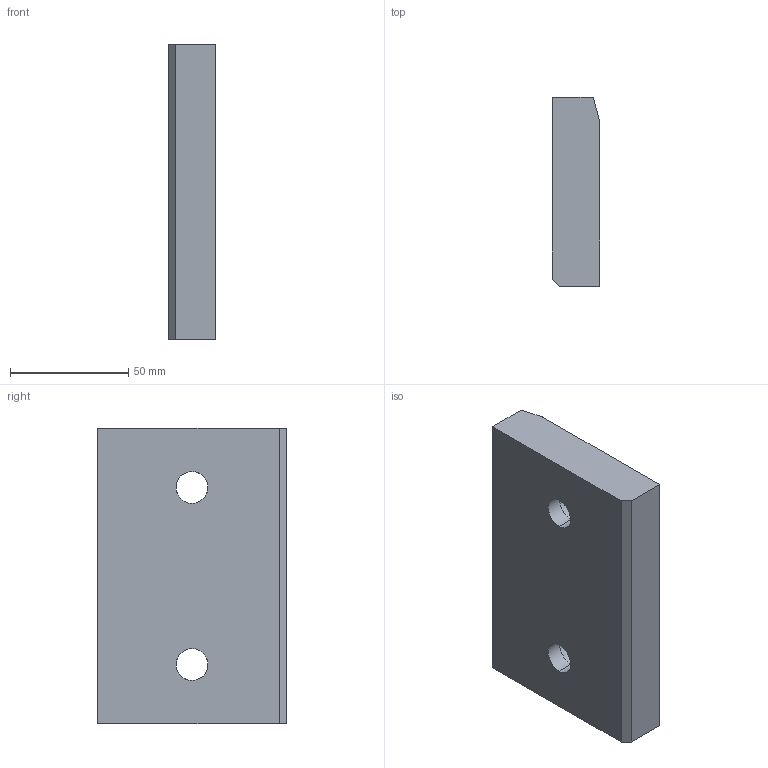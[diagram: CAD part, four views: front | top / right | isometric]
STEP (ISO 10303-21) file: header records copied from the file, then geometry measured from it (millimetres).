
FILE_DESCRIPTION(('CATIA V5 STEP Exchange'),'2;1');
FILE_NAME('C:\Users\borellobunino\Desktop\3D X SITO CF\A915\GSB_OILLESS_G22501125080\STEP-2.03\A915-125X80.stp','2019-07-14T13:45:53+00:00',('none'),('none'),'CATIA Version 5 Release 20 GA (IN-10)','CATIA V5 STEP AP203','none');
FILE_SCHEMA(('CONFIG_CONTROL_DESIGN'));
Length unit declared in the file: millimetre
Products named in the file (1): A915-125X80
Bounding box: 20 x 80 x 125 mm (x, y, z)
Volume: 187329.4 mm3; surface area: 29153.7 mm2
Topology: 1 solids, 1 shells, 23 faces, 73 edges, 54 vertices
Faces by surface type: plane 10, cylinder 9, torus 4
Entity records: 1057 total; most frequent: CARTESIAN_POINT 375, ORIENTED_EDGE 146, DIRECTION 103, EDGE_CURVE 73, AXIS2_PLACEMENT_3D 54, VERTEX_POINT 54, CIRCLE 30, EDGE_LOOP 29
